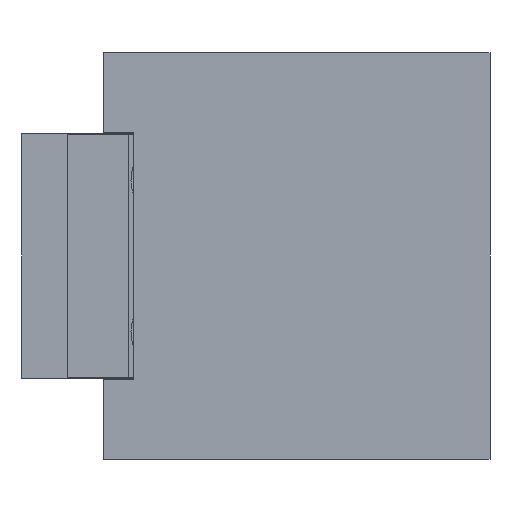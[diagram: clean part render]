
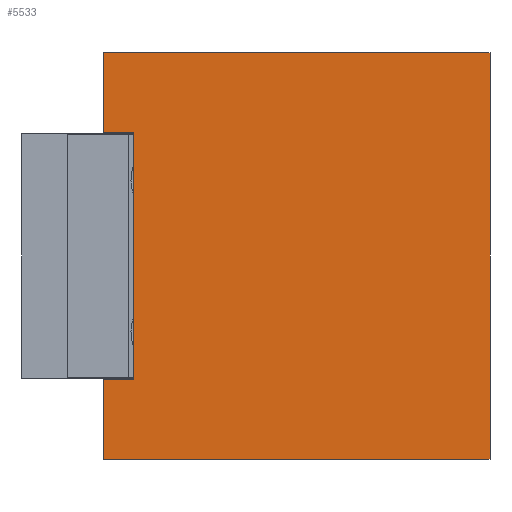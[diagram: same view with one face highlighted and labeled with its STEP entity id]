
A CAD part, left-side view. The second image highlights one B-rep face of the part: STEP entity #5533.
In plain terms, the highlighted planar face has unit normal (-1, 0, 0).
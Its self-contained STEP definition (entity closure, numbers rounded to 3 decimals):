
#344 = CARTESIAN_POINT ( 'NONE',  ( 0., 35., -32.1 ) ) ;
#363 = EDGE_CURVE ( 'NONE', #1936, #5519, #3480, .T. ) ;
#374 = ORIENTED_EDGE ( 'NONE', *, *, #3839, .T. ) ;
#387 = LINE ( 'NONE', #1923, #2567 ) ;
#389 = VERTEX_POINT ( 'NONE', #1263 ) ;
#446 = VECTOR ( 'NONE', #5806, 1000. ) ;
#471 = CARTESIAN_POINT ( 'NONE',  ( 0., 38., 0. ) ) ;
#507 = EDGE_CURVE ( 'NONE', #3400, #2131, #5073, .T. ) ;
#572 = CARTESIAN_POINT ( 'NONE',  ( 0., 38., -40. ) ) ;
#582 = DIRECTION ( 'NONE',  ( 0., -1., 0. ) ) ;
#796 = DIRECTION ( 'NONE',  ( 0., 1., 0. ) ) ;
#850 = VECTOR ( 'NONE', #1935, 1000. ) ;
#852 = CARTESIAN_POINT ( 'NONE',  ( 0., 0., -40. ) ) ;
#881 = CARTESIAN_POINT ( 'NONE',  ( 0., 0., -40. ) ) ;
#1257 = ORIENTED_EDGE ( 'NONE', *, *, #3503, .F. ) ;
#1263 = CARTESIAN_POINT ( 'NONE',  ( 0., 35., -7.9 ) ) ;
#1415 = EDGE_CURVE ( 'NONE', #5300, #5519, #3826, .T. ) ;
#1450 = CARTESIAN_POINT ( 'NONE',  ( 0., 0., -40. ) ) ;
#1517 = VECTOR ( 'NONE', #3804, 1000. ) ;
#1788 = EDGE_CURVE ( 'NONE', #5300, #4543, #5796, .T. ) ;
#1823 = DIRECTION ( 'NONE',  ( 0., 0., 1. ) ) ;
#1884 = ORIENTED_EDGE ( 'NONE', *, *, #363, .T. ) ;
#1910 = DIRECTION ( 'NONE',  ( -1., 0., 0. ) ) ;
#1923 = CARTESIAN_POINT ( 'NONE',  ( 0., 38., -40. ) ) ;
#1935 = DIRECTION ( 'NONE',  ( 0., -1., 0. ) ) ;
#1936 = VERTEX_POINT ( 'NONE', #2537 ) ;
#2131 = VERTEX_POINT ( 'NONE', #4503 ) ;
#2277 = CARTESIAN_POINT ( 'NONE',  ( 0., 35., -32.1 ) ) ;
#2360 = CARTESIAN_POINT ( 'NONE',  ( 0., 38., -32.1 ) ) ;
#2537 = CARTESIAN_POINT ( 'NONE',  ( 0., 35., -32.1 ) ) ;
#2567 = VECTOR ( 'NONE', #4692, 1000. ) ;
#2634 = ORIENTED_EDGE ( 'NONE', *, *, #3706, .F. ) ;
#2751 = ORIENTED_EDGE ( 'NONE', *, *, #1415, .F. ) ;
#2777 = LINE ( 'NONE', #3029, #446 ) ;
#2908 = DIRECTION ( 'NONE',  ( 0., 0., 1. ) ) ;
#2948 = EDGE_CURVE ( 'NONE', #1936, #389, #4593, .T. ) ;
#3029 = CARTESIAN_POINT ( 'NONE',  ( 0., 35., -7.9 ) ) ;
#3094 = FACE_OUTER_BOUND ( 'NONE', #5889, .T. ) ;
#3328 = VERTEX_POINT ( 'NONE', #5034 ) ;
#3352 = LINE ( 'NONE', #3809, #4426 ) ;
#3355 = CARTESIAN_POINT ( 'NONE',  ( 0., 0., 0. ) ) ;
#3372 = VECTOR ( 'NONE', #1823, 1000. ) ;
#3400 = VERTEX_POINT ( 'NONE', #471 ) ;
#3480 = LINE ( 'NONE', #344, #5808 ) ;
#3494 = ORIENTED_EDGE ( 'NONE', *, *, #2948, .F. ) ;
#3503 = EDGE_CURVE ( 'NONE', #3328, #3400, #387, .T. ) ;
#3706 = EDGE_CURVE ( 'NONE', #389, #3328, #2777, .T. ) ;
#3804 = DIRECTION ( 'NONE',  ( 0., 0., 1. ) ) ;
#3809 = CARTESIAN_POINT ( 'NONE',  ( 0., 0., -40. ) ) ;
#3822 = ORIENTED_EDGE ( 'NONE', *, *, #507, .F. ) ;
#3826 = LINE ( 'NONE', #572, #1517 ) ;
#3835 = AXIS2_PLACEMENT_3D ( 'NONE', #1450, #1910, #5151 ) ;
#3836 = VECTOR ( 'NONE', #582, 1000. ) ;
#3839 = EDGE_CURVE ( 'NONE', #4543, #2131, #3352, .T. ) ;
#4209 = PLANE ( 'NONE',  #3835 ) ;
#4426 = VECTOR ( 'NONE', #2908, 1000. ) ;
#4503 = CARTESIAN_POINT ( 'NONE',  ( 0., 0., 0. ) ) ;
#4543 = VERTEX_POINT ( 'NONE', #852 ) ;
#4593 = LINE ( 'NONE', #2277, #3372 ) ;
#4692 = DIRECTION ( 'NONE',  ( 0., 0., 1. ) ) ;
#5034 = CARTESIAN_POINT ( 'NONE',  ( 0., 38., -7.9 ) ) ;
#5073 = LINE ( 'NONE', #3355, #3836 ) ;
#5151 = DIRECTION ( 'NONE',  ( 0., 0., 1. ) ) ;
#5293 = ORIENTED_EDGE ( 'NONE', *, *, #1788, .T. ) ;
#5300 = VERTEX_POINT ( 'NONE', #5881 ) ;
#5519 = VERTEX_POINT ( 'NONE', #2360 ) ;
#5533 = ADVANCED_FACE ( 'NONE', ( #3094 ), #4209, .T. ) ;
#5796 = LINE ( 'NONE', #881, #850 ) ;
#5806 = DIRECTION ( 'NONE',  ( 0., 1., 0. ) ) ;
#5808 = VECTOR ( 'NONE', #796, 1000. ) ;
#5881 = CARTESIAN_POINT ( 'NONE',  ( 0., 38., -40. ) ) ;
#5889 = EDGE_LOOP ( 'NONE', ( #1884, #2751, #5293, #374, #3822, #1257, #2634, #3494 ) ) ;
